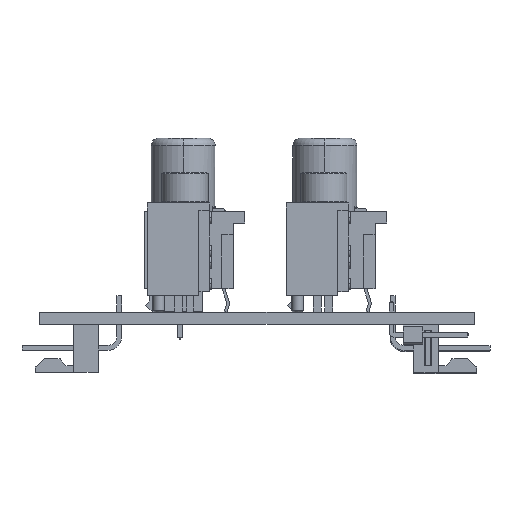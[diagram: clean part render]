
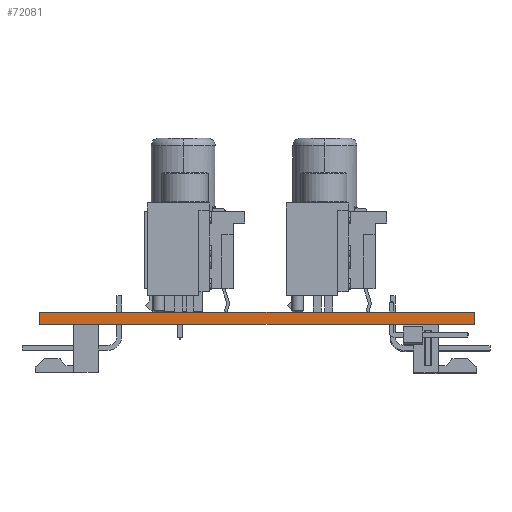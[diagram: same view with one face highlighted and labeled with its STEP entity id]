
A CAD part, front view. The second image highlights one B-rep face of the part: STEP entity #72081.
In plain terms, the highlighted planar face has unit normal (0, -1, 0).
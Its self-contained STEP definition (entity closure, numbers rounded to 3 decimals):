
#71965 = EDGE_CURVE('',#71966,#71968,#71970,.T.);
#71966 = VERTEX_POINT('',#71967);
#71967 = CARTESIAN_POINT('',(113.132,-129.54,0.));
#71968 = VERTEX_POINT('',#71969);
#71969 = CARTESIAN_POINT('',(113.132,-129.54,1.6));
#71970 = SURFACE_CURVE('',#71971,(#71975,#71987),.PCURVE_S1.);
#71971 = LINE('',#71972,#71973);
#71972 = CARTESIAN_POINT('',(113.132,-129.54,0.));
#71973 = VECTOR('',#71974,1.);
#71974 = DIRECTION('',(0.,0.,1.));
#71975 = PCURVE('',#71976,#71981);
#71976 = PLANE('',#71977);
#71977 = AXIS2_PLACEMENT_3D('',#71978,#71979,#71980);
#71978 = CARTESIAN_POINT('',(113.132,-129.54,0.));
#71979 = DIRECTION('',(-1.,0.,0.));
#71980 = DIRECTION('',(0.,1.,0.));
#71981 = DEFINITIONAL_REPRESENTATION('',(#71982),#71986);
#71982 = LINE('',#71983,#71984);
#71983 = CARTESIAN_POINT('',(0.,0.));
#71984 = VECTOR('',#71985,1.);
#71985 = DIRECTION('',(0.,-1.));
#71986 = ( GEOMETRIC_REPRESENTATION_CONTEXT(2) 
PARAMETRIC_REPRESENTATION_CONTEXT() REPRESENTATION_CONTEXT('2D SPACE',''
  ) );
#71987 = PCURVE('',#71988,#71993);
#71988 = PLANE('',#71989);
#71989 = AXIS2_PLACEMENT_3D('',#71990,#71991,#71992);
#71990 = CARTESIAN_POINT('',(169.52,-129.54,0.));
#71991 = DIRECTION('',(0.,-1.,0.));
#71992 = DIRECTION('',(-1.,0.,0.));
#71993 = DEFINITIONAL_REPRESENTATION('',(#71994),#71998);
#71994 = LINE('',#71995,#71996);
#71995 = CARTESIAN_POINT('',(56.388,0.));
#71996 = VECTOR('',#71997,1.);
#71997 = DIRECTION('',(0.,-1.));
#71998 = ( GEOMETRIC_REPRESENTATION_CONTEXT(2) 
PARAMETRIC_REPRESENTATION_CONTEXT() REPRESENTATION_CONTEXT('2D SPACE',''
  ) );
#72016 = PLANE('',#72017);
#72017 = AXIS2_PLACEMENT_3D('',#72018,#72019,#72020);
#72018 = CARTESIAN_POINT('',(141.326,-89.218,1.6));
#72019 = DIRECTION('',(-0.,-0.,-1.));
#72020 = DIRECTION('',(-1.,0.,0.));
#72070 = PLANE('',#72071);
#72071 = AXIS2_PLACEMENT_3D('',#72072,#72073,#72074);
#72072 = CARTESIAN_POINT('',(141.326,-89.218,0.));
#72073 = DIRECTION('',(-0.,-0.,-1.));
#72074 = DIRECTION('',(-1.,0.,0.));
#72081 = ADVANCED_FACE('',(#72082),#71988,.T.);
#72082 = FACE_BOUND('',#72083,.T.);
#72083 = EDGE_LOOP('',(#72084,#72114,#72135,#72136));
#72084 = ORIENTED_EDGE('',*,*,#72085,.T.);
#72085 = EDGE_CURVE('',#72086,#72088,#72090,.T.);
#72086 = VERTEX_POINT('',#72087);
#72087 = CARTESIAN_POINT('',(169.52,-129.54,0.));
#72088 = VERTEX_POINT('',#72089);
#72089 = CARTESIAN_POINT('',(169.52,-129.54,1.6));
#72090 = SURFACE_CURVE('',#72091,(#72095,#72102),.PCURVE_S1.);
#72091 = LINE('',#72092,#72093);
#72092 = CARTESIAN_POINT('',(169.52,-129.54,0.));
#72093 = VECTOR('',#72094,1.);
#72094 = DIRECTION('',(0.,0.,1.));
#72095 = PCURVE('',#71988,#72096);
#72096 = DEFINITIONAL_REPRESENTATION('',(#72097),#72101);
#72097 = LINE('',#72098,#72099);
#72098 = CARTESIAN_POINT('',(0.,-0.));
#72099 = VECTOR('',#72100,1.);
#72100 = DIRECTION('',(0.,-1.));
#72101 = ( GEOMETRIC_REPRESENTATION_CONTEXT(2) 
PARAMETRIC_REPRESENTATION_CONTEXT() REPRESENTATION_CONTEXT('2D SPACE',''
  ) );
#72102 = PCURVE('',#72103,#72108);
#72103 = PLANE('',#72104);
#72104 = AXIS2_PLACEMENT_3D('',#72105,#72106,#72107);
#72105 = CARTESIAN_POINT('',(169.52,-48.895,0.));
#72106 = DIRECTION('',(1.,0.,-0.));
#72107 = DIRECTION('',(0.,-1.,0.));
#72108 = DEFINITIONAL_REPRESENTATION('',(#72109),#72113);
#72109 = LINE('',#72110,#72111);
#72110 = CARTESIAN_POINT('',(80.645,0.));
#72111 = VECTOR('',#72112,1.);
#72112 = DIRECTION('',(0.,-1.));
#72113 = ( GEOMETRIC_REPRESENTATION_CONTEXT(2) 
PARAMETRIC_REPRESENTATION_CONTEXT() REPRESENTATION_CONTEXT('2D SPACE',''
  ) );
#72114 = ORIENTED_EDGE('',*,*,#72115,.T.);
#72115 = EDGE_CURVE('',#72088,#71968,#72116,.T.);
#72116 = SURFACE_CURVE('',#72117,(#72121,#72128),.PCURVE_S1.);
#72117 = LINE('',#72118,#72119);
#72118 = CARTESIAN_POINT('',(169.52,-129.54,1.6));
#72119 = VECTOR('',#72120,1.);
#72120 = DIRECTION('',(-1.,0.,0.));
#72121 = PCURVE('',#71988,#72122);
#72122 = DEFINITIONAL_REPRESENTATION('',(#72123),#72127);
#72123 = LINE('',#72124,#72125);
#72124 = CARTESIAN_POINT('',(0.,-1.6));
#72125 = VECTOR('',#72126,1.);
#72126 = DIRECTION('',(1.,0.));
#72127 = ( GEOMETRIC_REPRESENTATION_CONTEXT(2) 
PARAMETRIC_REPRESENTATION_CONTEXT() REPRESENTATION_CONTEXT('2D SPACE',''
  ) );
#72128 = PCURVE('',#72016,#72129);
#72129 = DEFINITIONAL_REPRESENTATION('',(#72130),#72134);
#72130 = LINE('',#72131,#72132);
#72131 = CARTESIAN_POINT('',(-28.194,-40.323));
#72132 = VECTOR('',#72133,1.);
#72133 = DIRECTION('',(1.,0.));
#72134 = ( GEOMETRIC_REPRESENTATION_CONTEXT(2) 
PARAMETRIC_REPRESENTATION_CONTEXT() REPRESENTATION_CONTEXT('2D SPACE',''
  ) );
#72135 = ORIENTED_EDGE('',*,*,#71965,.F.);
#72136 = ORIENTED_EDGE('',*,*,#72137,.F.);
#72137 = EDGE_CURVE('',#72086,#71966,#72138,.T.);
#72138 = SURFACE_CURVE('',#72139,(#72143,#72150),.PCURVE_S1.);
#72139 = LINE('',#72140,#72141);
#72140 = CARTESIAN_POINT('',(169.52,-129.54,0.));
#72141 = VECTOR('',#72142,1.);
#72142 = DIRECTION('',(-1.,0.,0.));
#72143 = PCURVE('',#71988,#72144);
#72144 = DEFINITIONAL_REPRESENTATION('',(#72145),#72149);
#72145 = LINE('',#72146,#72147);
#72146 = CARTESIAN_POINT('',(0.,-0.));
#72147 = VECTOR('',#72148,1.);
#72148 = DIRECTION('',(1.,0.));
#72149 = ( GEOMETRIC_REPRESENTATION_CONTEXT(2) 
PARAMETRIC_REPRESENTATION_CONTEXT() REPRESENTATION_CONTEXT('2D SPACE',''
  ) );
#72150 = PCURVE('',#72070,#72151);
#72151 = DEFINITIONAL_REPRESENTATION('',(#72152),#72156);
#72152 = LINE('',#72153,#72154);
#72153 = CARTESIAN_POINT('',(-28.194,-40.323));
#72154 = VECTOR('',#72155,1.);
#72155 = DIRECTION('',(1.,0.));
#72156 = ( GEOMETRIC_REPRESENTATION_CONTEXT(2) 
PARAMETRIC_REPRESENTATION_CONTEXT() REPRESENTATION_CONTEXT('2D SPACE',''
  ) );
